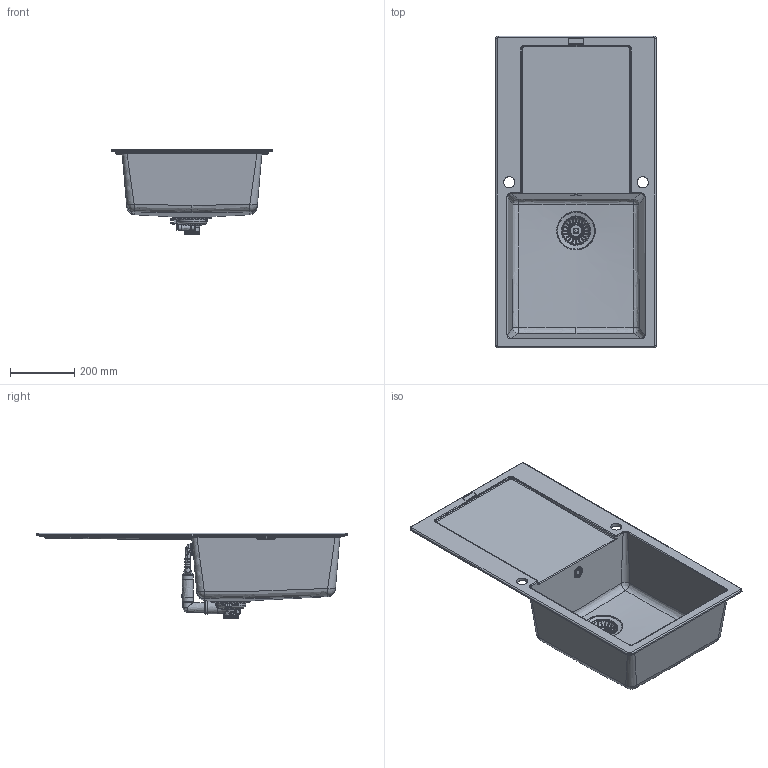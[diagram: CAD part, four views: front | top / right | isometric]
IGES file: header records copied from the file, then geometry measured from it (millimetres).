
Global section: file name: 20127597_TPM_000; native system: Autodesk Inventor 2021; preprocessor: unknown; date: 20220530.133041; units: millimetre
Bounding box: 500 x 970 x 266 mm (x, y, z)
Volume: 6472709.1 mm3; surface area: 1687956 mm2
Topology: 3 solids, 28 shells, 4513 faces, 12164 edges, 7761 vertices
Faces by surface type: bspline 4513
